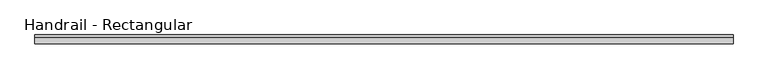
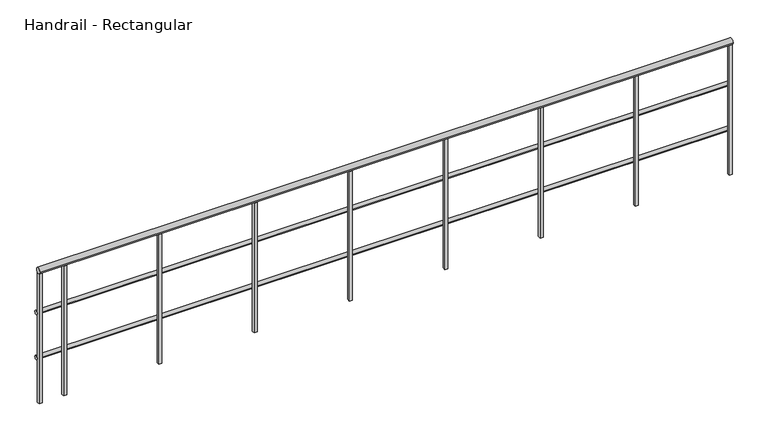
"""IFC4 building model written with IfcOpenShell, lengths in millimetres: railing geometry, Handrail - Rectangular."""

from ifc_helpers import new_model, si_unit, point, frame, frame_2d, origin, place, context, project, spatial, polyline, circle_curve, trimmed, segment, composite_curve, outline, extrude, source, transform, mapped, element, save


def handrail_rectangular_c13e586d(model_context):
    return source(origin(), model_context, "Body", "SweptSolid", [
        extrude(outline(composite_curve([segment(trimmed(circle_curve(frame_2d((11970.2316867, 3644.9)), 12.7), [point((11982.9316867, 3644.9))], [point((11957.5316867, 3644.9))], False, "CARTESIAN"), True, "CONTINUOUS"), segment(trimmed(circle_curve(frame_2d((11970.2316867, 3644.9)), 12.7), [point((11957.5316867, 3644.9))], [point((11982.9316867, 3644.9))], False, "CARTESIAN"), True, "CONTINUOUS")], self_intersect=False)), frame((-30440.2839563, 0.0, 0.0), z_axis=(1.0, 0.0, 0.0), x_axis=(0.0, 1.0, 0.0)), (0.0, 0.0, 1.0), 4432.3),
        extrude(outline(composite_curve([segment(trimmed(circle_curve(frame_2d((11970.2316867, 3340.1)), 12.7), [point((11982.9316867, 3340.1))], [point((11957.5316867, 3340.1))], False, "CARTESIAN"), True, "CONTINUOUS"), segment(trimmed(circle_curve(frame_2d((11970.2316867, 3340.1)), 12.7), [point((11957.5316867, 3340.1))], [point((11982.9316867, 3340.1))], False, "CARTESIAN"), True, "CONTINUOUS")], self_intersect=False)), frame((-30440.2839563, 0.0, 0.0), z_axis=(1.0, 0.0, 0.0), x_axis=(0.0, 1.0, 0.0)), (0.0, 0.0, 1.0), 4432.3),
        extrude(outline(composite_curve([segment(trimmed(circle_curve(frame_2d((11944.8316867, 3943.35)), 19.05), [point((11963.8816867, 3943.35))], [point((11925.7816867, 3943.35))], False, "CARTESIAN"), True, "CONTINUOUS"), segment(trimmed(circle_curve(frame_2d((11944.8316867, 3943.35)), 19.05), [point((11925.7816867, 3943.35))], [point((11963.8816867, 3943.35))], False, "CARTESIAN"), True, "CONTINUOUS")], self_intersect=False)), frame((-30440.2839563, 0.0, 0.0), z_axis=(1.0, 0.0, 0.0), x_axis=(0.0, 1.0, 0.0)), (0.0, 0.0, 1.0), 4432.3),
        extrude(outline(polyline([(-30265.6589563, 11935.3066867), (-30284.7089563, 11935.3066867), (-30284.7089563, 11954.3566867), (-30265.6589563, 11954.3566867), (-30265.6589563, 11935.3066867)])), frame((0.0, 0.0, 3048.0), z_axis=(0.0, 0.0, 1.0), x_axis=(1.0, 0.0, 0.0)), (0.0, 0.0, 1.0), 876.3),
        extrude(outline(polyline([(-29656.0589563, 11935.3066867), (-29675.1089563, 11935.3066867), (-29675.1089563, 11954.3566867), (-29656.0589563, 11954.3566867), (-29656.0589563, 11935.3066867)])), frame((0.0, 0.0, 3048.0), z_axis=(0.0, 0.0, 1.0), x_axis=(1.0, 0.0, 0.0)), (0.0, 0.0, 1.0), 876.3),
        extrude(outline(polyline([(-29046.4589563, 11935.3066867), (-29065.5089563, 11935.3066867), (-29065.5089563, 11954.3566867), (-29046.4589563, 11954.3566867), (-29046.4589563, 11935.3066867)])), frame((0.0, 0.0, 3048.0), z_axis=(0.0, 0.0, 1.0), x_axis=(1.0, 0.0, 0.0)), (0.0, 0.0, 1.0), 876.3),
        extrude(outline(polyline([(-28436.8589563, 11935.3066867), (-28455.9089563, 11935.3066867), (-28455.9089563, 11954.3566867), (-28436.8589563, 11954.3566867), (-28436.8589563, 11935.3066867)])), frame((0.0, 0.0, 3048.0), z_axis=(0.0, 0.0, 1.0), x_axis=(1.0, 0.0, 0.0)), (0.0, 0.0, 1.0), 876.3),
        extrude(outline(polyline([(-27827.2589563, 11935.3066867), (-27846.3089563, 11935.3066867), (-27846.3089563, 11954.3566867), (-27827.2589563, 11954.3566867), (-27827.2589563, 11935.3066867)])), frame((0.0, 0.0, 3048.0), z_axis=(0.0, 0.0, 1.0), x_axis=(1.0, 0.0, 0.0)), (0.0, 0.0, 1.0), 876.3),
        extrude(outline(polyline([(-27217.6589563, 11935.3066867), (-27236.7089563, 11935.3066867), (-27236.7089563, 11954.3566867), (-27217.6589563, 11954.3566867), (-27217.6589563, 11935.3066867)])), frame((0.0, 0.0, 3048.0), z_axis=(0.0, 0.0, 1.0), x_axis=(1.0, 0.0, 0.0)), (0.0, 0.0, 1.0), 876.3),
        extrude(outline(polyline([(-26608.0589563, 11935.3066867), (-26627.1089563, 11935.3066867), (-26627.1089563, 11954.3566867), (-26608.0589563, 11954.3566867), (-26608.0589563, 11935.3066867)])), frame((0.0, 0.0, 3048.0), z_axis=(0.0, 0.0, 1.0), x_axis=(1.0, 0.0, 0.0)), (0.0, 0.0, 1.0), 876.3),
        extrude(outline(polyline([(-30421.2339563, 11935.3066867), (-30440.2839563, 11935.3066867), (-30440.2839563, 11954.3566867), (-30421.2339563, 11954.3566867), (-30421.2339563, 11935.3066867)])), frame((0.0, 0.0, 3048.0), z_axis=(0.0, 0.0, 1.0), x_axis=(1.0, 0.0, 0.0)), (0.0, 0.0, 1.0), 876.3),
        extrude(outline(polyline([(-26007.9839563, 11935.3066867), (-26027.0339563, 11935.3066867), (-26027.0339563, 11954.3566867), (-26007.9839563, 11954.3566867), (-26007.9839563, 11935.3066867)])), frame((0.0, 0.0, 3048.0), z_axis=(0.0, 0.0, 1.0), x_axis=(1.0, 0.0, 0.0)), (0.0, 0.0, 1.0), 876.3),
    ])


if __name__ == "__main__":
    model = new_model("IFC4")
    model_context = context("Model", 3, world=origin())
    ifc_project = project(units=[si_unit("LENGTHUNIT", "METRE", prefix="MILLI")], contexts=[model_context])
    site = spatial("IfcSite", under=ifc_project)
    building = spatial("IfcBuilding", under=site)
    placement = place(None, origin())
    handrail_rectangular_shape = handrail_rectangular_c13e586d(model_context)
    element("IfcRailing", 1, ObjectType="Handrail - Rectangular", at=placement, inside=building, context=model_context, shape_type="MappedRepresentation", body=[
        mapped(handrail_rectangular_shape, transform((0.0, 0.0, 0.0), x_axis=(1.0, 0.0, 0.0), y_axis=(0.0, 1.0, 0.0), z_axis=(0.0, 0.0, 1.0))),
    ])
    save(model, "model.ifc")
